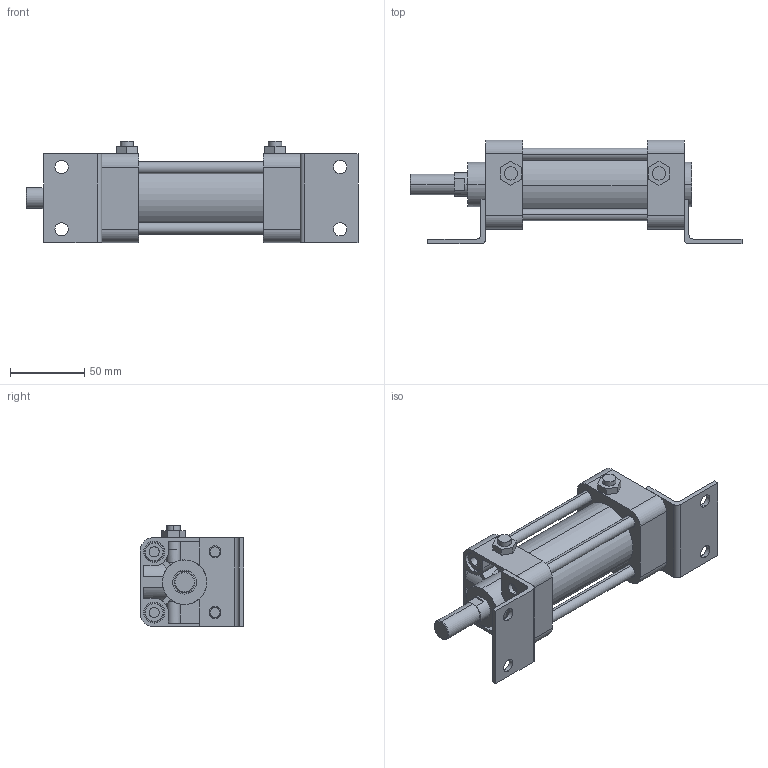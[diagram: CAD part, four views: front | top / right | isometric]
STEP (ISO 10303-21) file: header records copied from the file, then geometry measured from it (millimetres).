
FILE_DESCRIPTION (( 'STEP AP203' ), '1' );
FILE_NAME ('KG2-40-50-L.STEP', '2016-04-01T08:09:29', ( '' ), ( '' ), 'SwSTEP 2.0', 'SolidWorks 2014', '' );
FILE_SCHEMA (( 'CONFIG_CONTROL_DESIGN' ));
Length unit declared in the file: millimetre
Products named in the file (7): K-40-L; KGLH2-40-50; KG2-40-After; KG2-40-50-L
Assembly tree (17 placements, depth 2):
  KG2-40-50-L
    KG2-40-After
    KGLH2-40-50
    (unnamed)
    (unnamed)  x4
    (unnamed)  x8
    K-40-L  x2
Bounding box: 224 x 70 x 68.3 mm (x, y, z)
Volume: 328287.9 mm3; surface area: 100796.8 mm2
Topology: 17 solids, 22 shells, 369 faces, 865 edges, 555 vertices
Faces by surface type: plane 159, cylinder 152, torus 32, cone 26
Entity records: 8958 total; most frequent: CARTESIAN_POINT 1724, DIRECTION 1355, ORIENTED_EDGE 1242, EDGE_CURVE 621, AXIS2_PLACEMENT_3D 505, VERTEX_POINT 409, VECTOR 345, LINE 345
